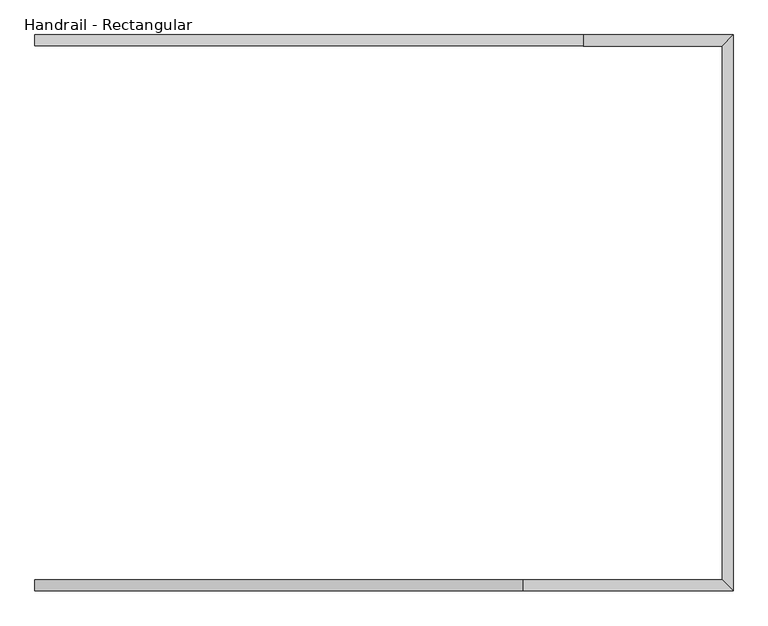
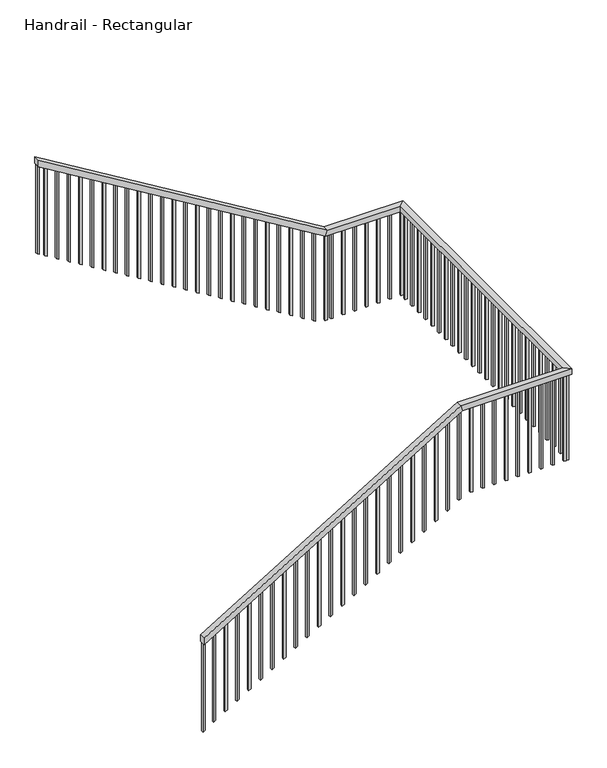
"""IFC4 building model written with IfcOpenShell, lengths in millimetres: railing geometry, Handrail - Rectangular."""

from ifc_helpers import new_model, si_unit, frame, origin, place, context, project, spatial, polyline, outline, extrude, faceted_brep, source, transform, mapped, element, save


def handrail_rectangular_2bf28051(model_context):
    return source(origin(), model_context, "Body", "SolidModel", [
        faceted_brep([(-3656.5276449, 1413.6164721, 1083.7333333), (-3656.5276449, 1464.4164721, 1083.7333333), (-3656.5276449, 1464.4164721, 1024.3318731), (-3656.5276449, 1413.6164721, 1024.3318731), (-1421.3276449, 1413.6164721, 2438.4), (-1421.3276449, 1464.4164721, 2438.4), (-1407.1352355, 1464.4164721, 2387.6), (-1407.1352355, 1413.6164721, 2387.6), (-456.1276449, 1413.6164721, 2438.4), (-506.9276449, 1464.4164721, 2438.4), (-506.9276449, 1464.4164721, 2387.6), (-456.1276449, 1413.6164721, 2387.6), (-456.1276449, 3963.0922314, 2438.4), (-506.9276449, 3912.2922314, 2438.4), (-506.9276449, 3912.2922314, 2387.6), (-456.1276449, 3963.0922314, 2387.6), (-1141.9276449, 3963.0922314, 2438.4), (-1141.9276449, 3912.2922314, 2438.4), (-1156.1200543, 3912.2922314, 2387.6), (-1156.1200543, 3963.0922314, 2387.6), (-3656.5276449, 3963.0922314, 3962.4), (-3656.5276449, 3963.0922314, 3902.9985397), (-3656.5276449, 3912.2922314, 3902.9985397), (-3656.5276449, 3912.2922314, 3962.4)], [[[0, 1, 2, 3]], [[1, 0, 4, 5]], [[2, 1, 5, 6]], [[3, 2, 6, 7]], [[0, 3, 7, 4]], [[5, 4, 8, 9]], [[6, 5, 9, 10]], [[7, 6, 10, 11]], [[4, 7, 11, 8]], [[9, 8, 12, 13]], [[10, 9, 13, 14]], [[11, 10, 14, 15]], [[8, 11, 15, 12]], [[13, 12, 16, 17]], [[14, 13, 17, 18]], [[15, 14, 18, 19]], [[12, 15, 19, 16]], [[20, 21, 22, 23]], [[17, 16, 20, 23]], [[18, 17, 23, 22]], [[19, 18, 22, 21]], [[16, 19, 21, 20]]]),
        extrude(outline(polyline([(3851.0439943, -3570.8026449), (3862.5894488, -3589.8526449), (3050.3720877, -3589.8526449), (3038.8266332, -3570.8026449), (3851.0439943, -3570.8026449)])), frame((0.0, 3928.1672314, 0.0), z_axis=(0.0, 1.0, 0.0), x_axis=(0.0, 0.0, 1.0)), (0.0, 0.0, 1.0), 19.05),
        extrude(outline(polyline([(3789.4682367, -3469.2026449), (3801.0136913, -3488.2526449), (2988.7963301, -3488.2526449), (2977.2508756, -3469.2026449), (3789.4682367, -3469.2026449)])), frame((0.0, 3928.1672314, 0.0), z_axis=(0.0, 1.0, 0.0), x_axis=(0.0, 0.0, 1.0)), (0.0, 0.0, 1.0), 19.05),
        extrude(outline(polyline([(3727.8924791, -3367.6026449), (3739.4379337, -3386.6526449), (2927.2205726, -3386.6526449), (2915.675118, -3367.6026449), (3727.8924791, -3367.6026449)])), frame((0.0, 3928.1672314, 0.0), z_axis=(0.0, 1.0, 0.0), x_axis=(0.0, 0.0, 1.0)), (0.0, 0.0, 1.0), 19.05),
        extrude(outline(polyline([(3666.3167216, -3266.0026449), (3677.8621761, -3285.0526449), (2865.644815, -3285.0526449), (2854.0993604, -3266.0026449), (3666.3167216, -3266.0026449)])), frame((0.0, 3928.1672314, 0.0), z_axis=(0.0, 1.0, 0.0), x_axis=(0.0, 0.0, 1.0)), (0.0, 0.0, 1.0), 19.05),
        extrude(outline(polyline([(3604.740964, -3164.4026449), (3616.2864185, -3183.4526449), (2804.0690574, -3183.4526449), (2792.5236029, -3164.4026449), (3604.740964, -3164.4026449)])), frame((0.0, 3928.1672314, 0.0), z_axis=(0.0, 1.0, 0.0), x_axis=(0.0, 0.0, 1.0)), (0.0, 0.0, 1.0), 19.05),
        extrude(outline(polyline([(3543.1652064, -3062.8026449), (3554.710661, -3081.8526449), (2742.4932998, -3081.8526449), (2730.9478453, -3062.8026449), (3543.1652064, -3062.8026449)])), frame((0.0, 3928.1672314, 0.0), z_axis=(0.0, 1.0, 0.0), x_axis=(0.0, 0.0, 1.0)), (0.0, 0.0, 1.0), 19.05),
        extrude(outline(polyline([(3481.5894488, -2961.2026449), (3493.1349034, -2980.2526449), (2680.9175423, -2980.2526449), (2669.3720877, -2961.2026449), (3481.5894488, -2961.2026449)])), frame((0.0, 3928.1672314, 0.0), z_axis=(0.0, 1.0, 0.0), x_axis=(0.0, 0.0, 1.0)), (0.0, 0.0, 1.0), 19.05),
        extrude(outline(polyline([(3420.0136913, -2859.6026449), (3431.5591458, -2878.6526449), (2619.3417847, -2878.6526449), (2607.7963301, -2859.6026449), (3420.0136913, -2859.6026449)])), frame((0.0, 3928.1672314, 0.0), z_axis=(0.0, 1.0, 0.0), x_axis=(0.0, 0.0, 1.0)), (0.0, 0.0, 1.0), 19.05),
        extrude(outline(polyline([(3358.4379337, -2758.0026449), (3369.9833882, -2777.0526449), (2557.7660271, -2777.0526449), (2546.2205726, -2758.0026449), (3358.4379337, -2758.0026449)])), frame((0.0, 3928.1672314, 0.0), z_axis=(0.0, 1.0, 0.0), x_axis=(0.0, 0.0, 1.0)), (0.0, 0.0, 1.0), 19.05),
        extrude(outline(polyline([(3296.8621761, -2656.4026449), (3308.4076307, -2675.4526449), (2496.1902695, -2675.4526449), (2484.644815, -2656.4026449), (3296.8621761, -2656.4026449)])), frame((0.0, 3928.1672314, 0.0), z_axis=(0.0, 1.0, 0.0), x_axis=(0.0, 0.0, 1.0)), (0.0, 0.0, 1.0), 19.05),
        extrude(outline(polyline([(3235.2864185, -2554.8026449), (3246.8318731, -2573.8526449), (2434.614512, -2573.8526449), (2423.0690574, -2554.8026449), (3235.2864185, -2554.8026449)])), frame((0.0, 3928.1672314, 0.0), z_axis=(0.0, 1.0, 0.0), x_axis=(0.0, 0.0, 1.0)), (0.0, 0.0, 1.0), 19.05),
        extrude(outline(polyline([(3173.710661, -2453.2026449), (3185.2561155, -2472.2526449), (2373.0387544, -2472.2526449), (2361.4932998, -2453.2026449), (3173.710661, -2453.2026449)])), frame((0.0, 3928.1672314, 0.0), z_axis=(0.0, 1.0, 0.0), x_axis=(0.0, 0.0, 1.0)), (0.0, 0.0, 1.0), 19.05),
        extrude(outline(polyline([(3112.1349034, -2351.6026449), (3123.6803579, -2370.6526449), (2311.4629968, -2370.6526449), (2299.9175423, -2351.6026449), (3112.1349034, -2351.6026449)])), frame((0.0, 3928.1672314, 0.0), z_axis=(0.0, 1.0, 0.0), x_axis=(0.0, 0.0, 1.0)), (0.0, 0.0, 1.0), 19.05),
        extrude(outline(polyline([(3050.5591458, -2250.0026449), (3062.1046004, -2269.0526449), (2249.8872392, -2269.0526449), (2238.3417847, -2250.0026449), (3050.5591458, -2250.0026449)])), frame((0.0, 3928.1672314, 0.0), z_axis=(0.0, 1.0, 0.0), x_axis=(0.0, 0.0, 1.0)), (0.0, 0.0, 1.0), 19.05),
        extrude(outline(polyline([(2988.9833882, -2148.4026449), (3000.5288428, -2167.4526449), (2188.3114817, -2167.4526449), (2176.7660271, -2148.4026449), (2988.9833882, -2148.4026449)])), frame((0.0, 3928.1672314, 0.0), z_axis=(0.0, 1.0, 0.0), x_axis=(0.0, 0.0, 1.0)), (0.0, 0.0, 1.0), 19.05),
        extrude(outline(polyline([(2927.4076307, -2046.8026449), (2938.9530852, -2065.8526449), (2126.7357241, -2065.8526449), (2115.1902695, -2046.8026449), (2927.4076307, -2046.8026449)])), frame((0.0, 3928.1672314, 0.0), z_axis=(0.0, 1.0, 0.0), x_axis=(0.0, 0.0, 1.0)), (0.0, 0.0, 1.0), 19.05),
        extrude(outline(polyline([(2865.8318731, -1945.2026449), (2877.3773276, -1964.2526449), (2065.1599665, -1964.2526449), (2053.614512, -1945.2026449), (2865.8318731, -1945.2026449)])), frame((0.0, 3928.1672314, 0.0), z_axis=(0.0, 1.0, 0.0), x_axis=(0.0, 0.0, 1.0)), (0.0, 0.0, 1.0), 19.05),
        extrude(outline(polyline([(2804.2561155, -1843.6026449), (2815.80157, -1862.6526449), (2003.5842089, -1862.6526449), (1992.0387544, -1843.6026449), (2804.2561155, -1843.6026449)])), frame((0.0, 3928.1672314, 0.0), z_axis=(0.0, 1.0, 0.0), x_axis=(0.0, 0.0, 1.0)), (0.0, 0.0, 1.0), 19.05),
        extrude(outline(polyline([(2742.6803579, -1742.0026449), (2754.2258125, -1761.0526449), (1942.0084514, -1761.0526449), (1930.4629968, -1742.0026449), (2742.6803579, -1742.0026449)])), frame((0.0, 3928.1672314, 0.0), z_axis=(0.0, 1.0, 0.0), x_axis=(0.0, 0.0, 1.0)), (0.0, 0.0, 1.0), 19.05),
        extrude(outline(polyline([(2681.1046004, -1640.4026449), (2692.6500549, -1659.4526449), (1880.4326938, -1659.4526449), (1868.8872392, -1640.4026449), (2681.1046004, -1640.4026449)])), frame((0.0, 3928.1672314, 0.0), z_axis=(0.0, 1.0, 0.0), x_axis=(0.0, 0.0, 1.0)), (0.0, 0.0, 1.0), 19.05),
        extrude(outline(polyline([(2619.5288428, -1538.8026449), (2631.0742973, -1557.8526449), (1818.8569362, -1557.8526449), (1807.3114817, -1538.8026449), (2619.5288428, -1538.8026449)])), frame((0.0, 3928.1672314, 0.0), z_axis=(0.0, 1.0, 0.0), x_axis=(0.0, 0.0, 1.0)), (0.0, 0.0, 1.0), 19.05),
        extrude(outline(polyline([(2557.9530852, -1437.2026449), (2569.4985397, -1456.2526449), (1757.2811786, -1456.2526449), (1745.7357241, -1437.2026449), (2557.9530852, -1437.2026449)])), frame((0.0, 3928.1672314, 0.0), z_axis=(0.0, 1.0, 0.0), x_axis=(0.0, 0.0, 1.0)), (0.0, 0.0, 1.0), 19.05),
        extrude(outline(polyline([(2496.3773276, -1335.6026449), (2507.9227822, -1354.6526449), (1695.7054211, -1354.6526449), (1684.1599665, -1335.6026449), (2496.3773276, -1335.6026449)])), frame((0.0, 3928.1672314, 0.0), z_axis=(0.0, 1.0, 0.0), x_axis=(0.0, 0.0, 1.0)), (0.0, 0.0, 1.0), 19.05),
        extrude(outline(polyline([(2434.80157, -1234.0026449), (2446.3470246, -1253.0526449), (1634.1296635, -1253.0526449), (1622.5842089, -1234.0026449), (2434.80157, -1234.0026449)])), frame((0.0, 3928.1672314, 0.0), z_axis=(0.0, 1.0, 0.0), x_axis=(0.0, 0.0, 1.0)), (0.0, 0.0, 1.0), 19.05),
        extrude(outline(polyline([(-1081.6026449, 3947.2172314), (-1081.6026449, 3928.1672314), (-1100.6526449, 3928.1672314), (-1100.6526449, 3947.2172314), (-1081.6026449, 3947.2172314)])), frame((0.0, 0.0, 1600.2), z_axis=(0.0, 0.0, 1.0), x_axis=(1.0, 0.0, 0.0)), (0.0, 0.0, 1.0), 787.4),
        extrude(outline(polyline([(-980.0026449, 3947.2172314), (-980.0026449, 3928.1672314), (-999.0526449, 3928.1672314), (-999.0526449, 3947.2172314), (-980.0026449, 3947.2172314)])), frame((0.0, 0.0, 1600.2), z_axis=(0.0, 0.0, 1.0), x_axis=(1.0, 0.0, 0.0)), (0.0, 0.0, 1.0), 787.4),
        extrude(outline(polyline([(-878.4026449, 3947.2172314), (-878.4026449, 3928.1672314), (-897.4526449, 3928.1672314), (-897.4526449, 3947.2172314), (-878.4026449, 3947.2172314)])), frame((0.0, 0.0, 1600.2), z_axis=(0.0, 0.0, 1.0), x_axis=(1.0, 0.0, 0.0)), (0.0, 0.0, 1.0), 787.4),
        extrude(outline(polyline([(-776.8026449, 3947.2172314), (-776.8026449, 3928.1672314), (-795.8526449, 3928.1672314), (-795.8526449, 3947.2172314), (-776.8026449, 3947.2172314)])), frame((0.0, 0.0, 1600.2), z_axis=(0.0, 0.0, 1.0), x_axis=(1.0, 0.0, 0.0)), (0.0, 0.0, 1.0), 787.4),
        extrude(outline(polyline([(-675.2026449, 3947.2172314), (-675.2026449, 3928.1672314), (-694.2526449, 3928.1672314), (-694.2526449, 3947.2172314), (-675.2026449, 3947.2172314)])), frame((0.0, 0.0, 1600.2), z_axis=(0.0, 0.0, 1.0), x_axis=(1.0, 0.0, 0.0)), (0.0, 0.0, 1.0), 787.4),
        extrude(outline(polyline([(-573.6026449, 3947.2172314), (-573.6026449, 3928.1672314), (-592.6526449, 3928.1672314), (-592.6526449, 3947.2172314), (-573.6026449, 3947.2172314)])), frame((0.0, 0.0, 1600.2), z_axis=(0.0, 0.0, 1.0), x_axis=(1.0, 0.0, 0.0)), (0.0, 0.0, 1.0), 787.4),
        extrude(outline(polyline([(-472.0026449, 3867.8914721), (-491.0526449, 3867.8914721), (-491.0526449, 3886.9414721), (-472.0026449, 3886.9414721), (-472.0026449, 3867.8914721)])), frame((0.0, 0.0, 1600.2), z_axis=(0.0, 0.0, 1.0), x_axis=(1.0, 0.0, 0.0)), (0.0, 0.0, 1.0), 787.4),
        extrude(outline(polyline([(-472.0026449, 3766.2914721), (-491.0526449, 3766.2914721), (-491.0526449, 3785.3414721), (-472.0026449, 3785.3414721), (-472.0026449, 3766.2914721)])), frame((0.0, 0.0, 1600.2), z_axis=(0.0, 0.0, 1.0), x_axis=(1.0, 0.0, 0.0)), (0.0, 0.0, 1.0), 787.4),
        extrude(outline(polyline([(-472.0026449, 3664.6914721), (-491.0526449, 3664.6914721), (-491.0526449, 3683.7414721), (-472.0026449, 3683.7414721), (-472.0026449, 3664.6914721)])), frame((0.0, 0.0, 1600.2), z_axis=(0.0, 0.0, 1.0), x_axis=(1.0, 0.0, 0.0)), (0.0, 0.0, 1.0), 787.4),
        extrude(outline(polyline([(-472.0026449, 3563.0914721), (-491.0526449, 3563.0914721), (-491.0526449, 3582.1414721), (-472.0026449, 3582.1414721), (-472.0026449, 3563.0914721)])), frame((0.0, 0.0, 1600.2), z_axis=(0.0, 0.0, 1.0), x_axis=(1.0, 0.0, 0.0)), (0.0, 0.0, 1.0), 787.4),
        extrude(outline(polyline([(-472.0026449, 3461.4914721), (-491.0526449, 3461.4914721), (-491.0526449, 3480.5414721), (-472.0026449, 3480.5414721), (-472.0026449, 3461.4914721)])), frame((0.0, 0.0, 1600.2), z_axis=(0.0, 0.0, 1.0), x_axis=(1.0, 0.0, 0.0)), (0.0, 0.0, 1.0), 787.4),
        extrude(outline(polyline([(-472.0026449, 3359.8914721), (-491.0526449, 3359.8914721), (-491.0526449, 3378.9414721), (-472.0026449, 3378.9414721), (-472.0026449, 3359.8914721)])), frame((0.0, 0.0, 1600.2), z_axis=(0.0, 0.0, 1.0), x_axis=(1.0, 0.0, 0.0)), (0.0, 0.0, 1.0), 787.4),
        extrude(outline(polyline([(-472.0026449, 3258.2914721), (-491.0526449, 3258.2914721), (-491.0526449, 3277.3414721), (-472.0026449, 3277.3414721), (-472.0026449, 3258.2914721)])), frame((0.0, 0.0, 1600.2), z_axis=(0.0, 0.0, 1.0), x_axis=(1.0, 0.0, 0.0)), (0.0, 0.0, 1.0), 787.4),
        extrude(outline(polyline([(-472.0026449, 3156.6914721), (-491.0526449, 3156.6914721), (-491.0526449, 3175.7414721), (-472.0026449, 3175.7414721), (-472.0026449, 3156.6914721)])), frame((0.0, 0.0, 1600.2), z_axis=(0.0, 0.0, 1.0), x_axis=(1.0, 0.0, 0.0)), (0.0, 0.0, 1.0), 787.4),
        extrude(outline(polyline([(-472.0026449, 3055.0914721), (-491.0526449, 3055.0914721), (-491.0526449, 3074.1414721), (-472.0026449, 3074.1414721), (-472.0026449, 3055.0914721)])), frame((0.0, 0.0, 1600.2), z_axis=(0.0, 0.0, 1.0), x_axis=(1.0, 0.0, 0.0)), (0.0, 0.0, 1.0), 787.4),
        extrude(outline(polyline([(-472.0026449, 2953.4914721), (-491.0526449, 2953.4914721), (-491.0526449, 2972.5414721), (-472.0026449, 2972.5414721), (-472.0026449, 2953.4914721)])), frame((0.0, 0.0, 1600.2), z_axis=(0.0, 0.0, 1.0), x_axis=(1.0, 0.0, 0.0)), (0.0, 0.0, 1.0), 787.4),
        extrude(outline(polyline([(-472.0026449, 2851.8914721), (-491.0526449, 2851.8914721), (-491.0526449, 2870.9414721), (-472.0026449, 2870.9414721), (-472.0026449, 2851.8914721)])), frame((0.0, 0.0, 1600.2), z_axis=(0.0, 0.0, 1.0), x_axis=(1.0, 0.0, 0.0)), (0.0, 0.0, 1.0), 787.4),
        extrude(outline(polyline([(-472.0026449, 2750.2914721), (-491.0526449, 2750.2914721), (-491.0526449, 2769.3414721), (-472.0026449, 2769.3414721), (-472.0026449, 2750.2914721)])), frame((0.0, 0.0, 1600.2), z_axis=(0.0, 0.0, 1.0), x_axis=(1.0, 0.0, 0.0)), (0.0, 0.0, 1.0), 787.4),
        extrude(outline(polyline([(-472.0026449, 2648.6914721), (-491.0526449, 2648.6914721), (-491.0526449, 2667.7414721), (-472.0026449, 2667.7414721), (-472.0026449, 2648.6914721)])), frame((0.0, 0.0, 1600.2), z_axis=(0.0, 0.0, 1.0), x_axis=(1.0, 0.0, 0.0)), (0.0, 0.0, 1.0), 787.4),
        extrude(outline(polyline([(-472.0026449, 2547.0914721), (-491.0526449, 2547.0914721), (-491.0526449, 2566.1414721), (-472.0026449, 2566.1414721), (-472.0026449, 2547.0914721)])), frame((0.0, 0.0, 1600.2), z_axis=(0.0, 0.0, 1.0), x_axis=(1.0, 0.0, 0.0)), (0.0, 0.0, 1.0), 787.4),
        extrude(outline(polyline([(-472.0026449, 2445.4914721), (-491.0526449, 2445.4914721), (-491.0526449, 2464.5414721), (-472.0026449, 2464.5414721), (-472.0026449, 2445.4914721)])), frame((0.0, 0.0, 1600.2), z_axis=(0.0, 0.0, 1.0), x_axis=(1.0, 0.0, 0.0)), (0.0, 0.0, 1.0), 787.4),
        extrude(outline(polyline([(-472.0026449, 2343.8914721), (-491.0526449, 2343.8914721), (-491.0526449, 2362.9414721), (-472.0026449, 2362.9414721), (-472.0026449, 2343.8914721)])), frame((0.0, 0.0, 1600.2), z_axis=(0.0, 0.0, 1.0), x_axis=(1.0, 0.0, 0.0)), (0.0, 0.0, 1.0), 787.4),
        extrude(outline(polyline([(-472.0026449, 2242.2914721), (-491.0526449, 2242.2914721), (-491.0526449, 2261.3414721), (-472.0026449, 2261.3414721), (-472.0026449, 2242.2914721)])), frame((0.0, 0.0, 1600.2), z_axis=(0.0, 0.0, 1.0), x_axis=(1.0, 0.0, 0.0)), (0.0, 0.0, 1.0), 787.4),
        extrude(outline(polyline([(-472.0026449, 2140.6914721), (-491.0526449, 2140.6914721), (-491.0526449, 2159.7414721), (-472.0026449, 2159.7414721), (-472.0026449, 2140.6914721)])), frame((0.0, 0.0, 1600.2), z_axis=(0.0, 0.0, 1.0), x_axis=(1.0, 0.0, 0.0)), (0.0, 0.0, 1.0), 787.4),
        extrude(outline(polyline([(-472.0026449, 2039.0914721), (-491.0526449, 2039.0914721), (-491.0526449, 2058.1414721), (-472.0026449, 2058.1414721), (-472.0026449, 2039.0914721)])), frame((0.0, 0.0, 1600.2), z_axis=(0.0, 0.0, 1.0), x_axis=(1.0, 0.0, 0.0)), (0.0, 0.0, 1.0), 787.4),
        extrude(outline(polyline([(-472.0026449, 1937.4914721), (-491.0526449, 1937.4914721), (-491.0526449, 1956.5414721), (-472.0026449, 1956.5414721), (-472.0026449, 1937.4914721)])), frame((0.0, 0.0, 1600.2), z_axis=(0.0, 0.0, 1.0), x_axis=(1.0, 0.0, 0.0)), (0.0, 0.0, 1.0), 787.4),
        extrude(outline(polyline([(-472.0026449, 1835.8914721), (-491.0526449, 1835.8914721), (-491.0526449, 1854.9414721), (-472.0026449, 1854.9414721), (-472.0026449, 1835.8914721)])), frame((0.0, 0.0, 1600.2), z_axis=(0.0, 0.0, 1.0), x_axis=(1.0, 0.0, 0.0)), (0.0, 0.0, 1.0), 787.4),
        extrude(outline(polyline([(-472.0026449, 1734.2914721), (-491.0526449, 1734.2914721), (-491.0526449, 1753.3414721), (-472.0026449, 1753.3414721), (-472.0026449, 1734.2914721)])), frame((0.0, 0.0, 1600.2), z_axis=(0.0, 0.0, 1.0), x_axis=(1.0, 0.0, 0.0)), (0.0, 0.0, 1.0), 787.4),
        extrude(outline(polyline([(-472.0026449, 1632.6914721), (-491.0526449, 1632.6914721), (-491.0526449, 1651.7414721), (-472.0026449, 1651.7414721), (-472.0026449, 1632.6914721)])), frame((0.0, 0.0, 1600.2), z_axis=(0.0, 0.0, 1.0), x_axis=(1.0, 0.0, 0.0)), (0.0, 0.0, 1.0), 787.4),
        extrude(outline(polyline([(-472.0026449, 1531.0914721), (-491.0526449, 1531.0914721), (-491.0526449, 1550.1414721), (-472.0026449, 1550.1414721), (-472.0026449, 1531.0914721)])), frame((0.0, 0.0, 1600.2), z_axis=(0.0, 0.0, 1.0), x_axis=(1.0, 0.0, 0.0)), (0.0, 0.0, 1.0), 787.4),
        extrude(outline(polyline([(-516.4526449, 1429.4914721), (-516.4526449, 1448.5414721), (-497.4026449, 1448.5414721), (-497.4026449, 1429.4914721), (-516.4526449, 1429.4914721)])), frame((0.0, 0.0, 1600.2), z_axis=(0.0, 0.0, 1.0), x_axis=(1.0, 0.0, 0.0)), (0.0, 0.0, 1.0), 787.4),
        extrude(outline(polyline([(-618.0526449, 1429.4914721), (-618.0526449, 1448.5414721), (-599.0026449, 1448.5414721), (-599.0026449, 1429.4914721), (-618.0526449, 1429.4914721)])), frame((0.0, 0.0, 1600.2), z_axis=(0.0, 0.0, 1.0), x_axis=(1.0, 0.0, 0.0)), (0.0, 0.0, 1.0), 787.4),
        extrude(outline(polyline([(-719.6526449, 1429.4914721), (-719.6526449, 1448.5414721), (-700.6026449, 1448.5414721), (-700.6026449, 1429.4914721), (-719.6526449, 1429.4914721)])), frame((0.0, 0.0, 1600.2), z_axis=(0.0, 0.0, 1.0), x_axis=(1.0, 0.0, 0.0)), (0.0, 0.0, 1.0), 787.4),
        extrude(outline(polyline([(-821.2526449, 1429.4914721), (-821.2526449, 1448.5414721), (-802.2026449, 1448.5414721), (-802.2026449, 1429.4914721), (-821.2526449, 1429.4914721)])), frame((0.0, 0.0, 1600.2), z_axis=(0.0, 0.0, 1.0), x_axis=(1.0, 0.0, 0.0)), (0.0, 0.0, 1.0), 787.4),
        extrude(outline(polyline([(-922.8526449, 1429.4914721), (-922.8526449, 1448.5414721), (-903.8026449, 1448.5414721), (-903.8026449, 1429.4914721), (-922.8526449, 1429.4914721)])), frame((0.0, 0.0, 1600.2), z_axis=(0.0, 0.0, 1.0), x_axis=(1.0, 0.0, 0.0)), (0.0, 0.0, 1.0), 787.4),
        extrude(outline(polyline([(-1024.4526449, 1429.4914721), (-1024.4526449, 1448.5414721), (-1005.4026449, 1448.5414721), (-1005.4026449, 1429.4914721), (-1024.4526449, 1429.4914721)])), frame((0.0, 0.0, 1600.2), z_axis=(0.0, 0.0, 1.0), x_axis=(1.0, 0.0, 0.0)), (0.0, 0.0, 1.0), 787.4),
        extrude(outline(polyline([(-1126.0526449, 1429.4914721), (-1126.0526449, 1448.5414721), (-1107.0026449, 1448.5414721), (-1107.0026449, 1429.4914721), (-1126.0526449, 1429.4914721)])), frame((0.0, 0.0, 1600.2), z_axis=(0.0, 0.0, 1.0), x_axis=(1.0, 0.0, 0.0)), (0.0, 0.0, 1.0), 787.4),
        extrude(outline(polyline([(-1227.6526449, 1429.4914721), (-1227.6526449, 1448.5414721), (-1208.6026449, 1448.5414721), (-1208.6026449, 1429.4914721), (-1227.6526449, 1429.4914721)])), frame((0.0, 0.0, 1600.2), z_axis=(0.0, 0.0, 1.0), x_axis=(1.0, 0.0, 0.0)), (0.0, 0.0, 1.0), 787.4),
        extrude(outline(polyline([(-1329.2526449, 1429.4914721), (-1329.2526449, 1448.5414721), (-1310.2026449, 1448.5414721), (-1310.2026449, 1429.4914721), (-1329.2526449, 1429.4914721)])), frame((0.0, 0.0, 1600.2), z_axis=(0.0, 0.0, 1.0), x_axis=(1.0, 0.0, 0.0)), (0.0, 0.0, 1.0), 787.4),
        extrude(outline(polyline([(2323.1955094, -1513.4026449), (2311.6500549, -1532.4526449), (1499.4326938, -1532.4526449), (1510.9781483, -1513.4026449), (2323.1955094, -1513.4026449)])), frame((0.0, 1429.4914721, 0.0), z_axis=(0.0, 1.0, 0.0), x_axis=(0.0, 0.0, 1.0)), (0.0, 0.0, 1.0), 19.05),
        extrude(outline(polyline([(2261.6197519, -1615.0026449), (2250.0742973, -1634.0526449), (1437.8569362, -1634.0526449), (1449.4023907, -1615.0026449), (2261.6197519, -1615.0026449)])), frame((0.0, 1429.4914721, 0.0), z_axis=(0.0, 1.0, 0.0), x_axis=(0.0, 0.0, 1.0)), (0.0, 0.0, 1.0), 19.05),
        extrude(outline(polyline([(2200.0439943, -1716.6026449), (2188.4985397, -1735.6526449), (1376.2811786, -1735.6526449), (1387.8266332, -1716.6026449), (2200.0439943, -1716.6026449)])), frame((0.0, 1429.4914721, 0.0), z_axis=(0.0, 1.0, 0.0), x_axis=(0.0, 0.0, 1.0)), (0.0, 0.0, 1.0), 19.05),
        extrude(outline(polyline([(2138.4682367, -1818.2026449), (2126.9227822, -1837.2526449), (1314.7054211, -1837.2526449), (1326.2508756, -1818.2026449), (2138.4682367, -1818.2026449)])), frame((0.0, 1429.4914721, 0.0), z_axis=(0.0, 1.0, 0.0), x_axis=(0.0, 0.0, 1.0)), (0.0, 0.0, 1.0), 19.05),
        extrude(outline(polyline([(2076.8924791, -1919.8026449), (2065.3470246, -1938.8526449), (1253.1296635, -1938.8526449), (1264.675118, -1919.8026449), (2076.8924791, -1919.8026449)])), frame((0.0, 1429.4914721, 0.0), z_axis=(0.0, 1.0, 0.0), x_axis=(0.0, 0.0, 1.0)), (0.0, 0.0, 1.0), 19.05),
        extrude(outline(polyline([(2015.3167216, -2021.4026449), (2003.771267, -2040.4526449), (1191.5539059, -2040.4526449), (1203.0993604, -2021.4026449), (2015.3167216, -2021.4026449)])), frame((0.0, 1429.4914721, 0.0), z_axis=(0.0, 1.0, 0.0), x_axis=(0.0, 0.0, 1.0)), (0.0, 0.0, 1.0), 19.05),
        extrude(outline(polyline([(1953.740964, -2123.0026449), (1942.1955094, -2142.0526449), (1129.9781483, -2142.0526449), (1141.5236029, -2123.0026449), (1953.740964, -2123.0026449)])), frame((0.0, 1429.4914721, 0.0), z_axis=(0.0, 1.0, 0.0), x_axis=(0.0, 0.0, 1.0)), (0.0, 0.0, 1.0), 19.05),
        extrude(outline(polyline([(1892.1652064, -2224.6026449), (1880.6197519, -2243.6526449), (1068.4023907, -2243.6526449), (1079.9478453, -2224.6026449), (1892.1652064, -2224.6026449)])), frame((0.0, 1429.4914721, 0.0), z_axis=(0.0, 1.0, 0.0), x_axis=(0.0, 0.0, 1.0)), (0.0, 0.0, 1.0), 19.05),
        extrude(outline(polyline([(1830.5894488, -2326.2026449), (1819.0439943, -2345.2526449), (1006.8266332, -2345.2526449), (1018.3720877, -2326.2026449), (1830.5894488, -2326.2026449)])), frame((0.0, 1429.4914721, 0.0), z_axis=(0.0, 1.0, 0.0), x_axis=(0.0, 0.0, 1.0)), (0.0, 0.0, 1.0), 19.05),
        extrude(outline(polyline([(1769.0136913, -2427.8026449), (1757.4682367, -2446.8526449), (945.2508756, -2446.8526449), (956.7963301, -2427.8026449), (1769.0136913, -2427.8026449)])), frame((0.0, 1429.4914721, 0.0), z_axis=(0.0, 1.0, 0.0), x_axis=(0.0, 0.0, 1.0)), (0.0, 0.0, 1.0), 19.05),
        extrude(outline(polyline([(1707.4379337, -2529.4026449), (1695.8924791, -2548.4526449), (883.675118, -2548.4526449), (895.2205726, -2529.4026449), (1707.4379337, -2529.4026449)])), frame((0.0, 1429.4914721, 0.0), z_axis=(0.0, 1.0, 0.0), x_axis=(0.0, 0.0, 1.0)), (0.0, 0.0, 1.0), 19.05),
        extrude(outline(polyline([(1645.8621761, -2631.0026449), (1634.3167216, -2650.0526449), (822.0993604, -2650.0526449), (833.644815, -2631.0026449), (1645.8621761, -2631.0026449)])), frame((0.0, 1429.4914721, 0.0), z_axis=(0.0, 1.0, 0.0), x_axis=(0.0, 0.0, 1.0)), (0.0, 0.0, 1.0), 19.05),
        extrude(outline(polyline([(1584.2864185, -2732.6026449), (1572.740964, -2751.6526449), (760.5236029, -2751.6526449), (772.0690574, -2732.6026449), (1584.2864185, -2732.6026449)])), frame((0.0, 1429.4914721, 0.0), z_axis=(0.0, 1.0, 0.0), x_axis=(0.0, 0.0, 1.0)), (0.0, 0.0, 1.0), 19.05),
        extrude(outline(polyline([(1522.710661, -2834.2026449), (1511.1652064, -2853.2526449), (698.9478453, -2853.2526449), (710.4932998, -2834.2026449), (1522.710661, -2834.2026449)])), frame((0.0, 1429.4914721, 0.0), z_axis=(0.0, 1.0, 0.0), x_axis=(0.0, 0.0, 1.0)), (0.0, 0.0, 1.0), 19.05),
        extrude(outline(polyline([(1461.1349034, -2935.8026449), (1449.5894488, -2954.8526449), (637.3720877, -2954.8526449), (648.9175423, -2935.8026449), (1461.1349034, -2935.8026449)])), frame((0.0, 1429.4914721, 0.0), z_axis=(0.0, 1.0, 0.0), x_axis=(0.0, 0.0, 1.0)), (0.0, 0.0, 1.0), 19.05),
        extrude(outline(polyline([(1399.5591458, -3037.4026449), (1388.0136913, -3056.4526449), (575.7963301, -3056.4526449), (587.3417847, -3037.4026449), (1399.5591458, -3037.4026449)])), frame((0.0, 1429.4914721, 0.0), z_axis=(0.0, 1.0, 0.0), x_axis=(0.0, 0.0, 1.0)), (0.0, 0.0, 1.0), 19.05),
        extrude(outline(polyline([(1337.9833882, -3139.0026449), (1326.4379337, -3158.0526449), (514.2205726, -3158.0526449), (525.7660271, -3139.0026449), (1337.9833882, -3139.0026449)])), frame((0.0, 1429.4914721, 0.0), z_axis=(0.0, 1.0, 0.0), x_axis=(0.0, 0.0, 1.0)), (0.0, 0.0, 1.0), 19.05),
        extrude(outline(polyline([(1276.4076307, -3240.6026449), (1264.8621761, -3259.6526449), (452.644815, -3259.6526449), (464.1902695, -3240.6026449), (1276.4076307, -3240.6026449)])), frame((0.0, 1429.4914721, 0.0), z_axis=(0.0, 1.0, 0.0), x_axis=(0.0, 0.0, 1.0)), (0.0, 0.0, 1.0), 19.05),
        extrude(outline(polyline([(1214.8318731, -3342.2026449), (1203.2864185, -3361.2526449), (391.0690574, -3361.2526449), (402.614512, -3342.2026449), (1214.8318731, -3342.2026449)])), frame((0.0, 1429.4914721, 0.0), z_axis=(0.0, 1.0, 0.0), x_axis=(0.0, 0.0, 1.0)), (0.0, 0.0, 1.0), 19.05),
        extrude(outline(polyline([(1153.2561155, -3443.8026449), (1141.710661, -3462.8526449), (329.4932998, -3462.8526449), (341.0387544, -3443.8026449), (1153.2561155, -3443.8026449)])), frame((0.0, 1429.4914721, 0.0), z_axis=(0.0, 1.0, 0.0), x_axis=(0.0, 0.0, 1.0)), (0.0, 0.0, 1.0), 19.05),
        extrude(outline(polyline([(1091.6803579, -3545.4026449), (1080.1349034, -3564.4526449), (267.9175423, -3564.4526449), (279.4629968, -3545.4026449), (1091.6803579, -3545.4026449)])), frame((0.0, 1429.4914721, 0.0), z_axis=(0.0, 1.0, 0.0), x_axis=(0.0, 0.0, 1.0)), (0.0, 0.0, 1.0), 19.05),
        extrude(outline(polyline([(-1132.4026449, 3947.2172314), (-1132.4026449, 3928.1672314), (-1151.4526449, 3928.1672314), (-1151.4526449, 3947.2172314), (-1132.4026449, 3947.2172314)])), frame((0.0, 0.0, 1600.2), z_axis=(0.0, 0.0, 1.0), x_axis=(1.0, 0.0, 0.0)), (0.0, 0.0, 1.0), 787.4),
        extrude(outline(polyline([(-472.0026449, 3928.1672314), (-491.0526449, 3928.1672314), (-491.0526449, 3947.2172314), (-472.0026449, 3947.2172314), (-472.0026449, 3928.1672314)])), frame((0.0, 0.0, 1600.2), z_axis=(0.0, 0.0, 1.0), x_axis=(1.0, 0.0, 0.0)), (0.0, 0.0, 1.0), 787.4),
        extrude(outline(polyline([(-491.0526449, 1429.4914721), (-491.0526449, 1448.5414721), (-472.0026449, 1448.5414721), (-472.0026449, 1429.4914721), (-491.0526449, 1429.4914721)])), frame((0.0, 0.0, 1600.2), z_axis=(0.0, 0.0, 1.0), x_axis=(1.0, 0.0, 0.0)), (0.0, 0.0, 1.0), 787.4),
        extrude(outline(polyline([(2384.771267, -1411.8026449), (2373.2258125, -1430.8526449), (1561.0084514, -1430.8526449), (1572.5539059, -1411.8026449), (2384.771267, -1411.8026449)])), frame((0.0, 1429.4914721, 0.0), z_axis=(0.0, 1.0, 0.0), x_axis=(0.0, 0.0, 1.0)), (0.0, 0.0, 1.0), 19.05),
        extrude(outline(polyline([(3891.4530852, -3637.4776449), (3902.9985397, -3656.5276449), (3090.7811786, -3656.5276449), (3079.2357241, -3637.4776449), (3891.4530852, -3637.4776449)])), frame((0.0, 3928.1672314, 0.0), z_axis=(0.0, 1.0, 0.0), x_axis=(0.0, 0.0, 1.0)), (0.0, 0.0, 1.0), 19.05),
        extrude(outline(polyline([(1035.8773276, -3637.4776449), (1024.3318731, -3656.5276449), (212.114512, -3656.5276449), (223.6599665, -3637.4776449), (1035.8773276, -3637.4776449)])), frame((0.0, 1429.4914721, 0.0), z_axis=(0.0, 1.0, 0.0), x_axis=(0.0, 0.0, 1.0)), (0.0, 0.0, 1.0), 19.05),
    ])


if __name__ == "__main__":
    model = new_model("IFC4")
    model_context = context("Model", 3, world=origin())
    ifc_project = project(units=[si_unit("LENGTHUNIT", "METRE", prefix="MILLI")], contexts=[model_context])
    site = spatial("IfcSite", under=ifc_project)
    building = spatial("IfcBuilding", under=site)
    placement = place(None, origin())
    handrail_rectangular_shape = handrail_rectangular_2bf28051(model_context)
    element("IfcRailing", 1, ObjectType="Handrail - Rectangular", at=placement, inside=building, context=model_context, shape_type="MappedRepresentation", body=[
        mapped(handrail_rectangular_shape, transform((0.0, 0.0, 0.0), x_axis=(1.0, 0.0, 0.0), y_axis=(0.0, 1.0, 0.0), z_axis=(0.0, 0.0, 1.0))),
    ])
    save(model, "model.ifc")
